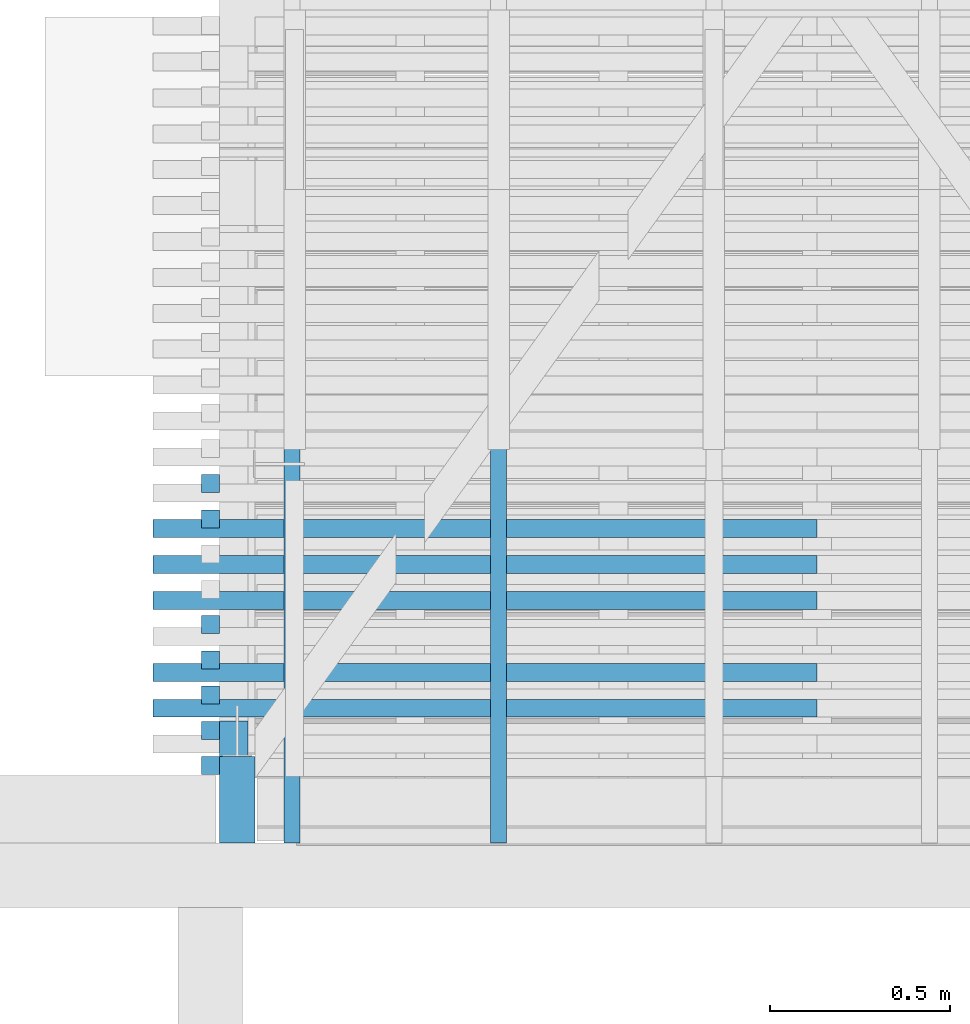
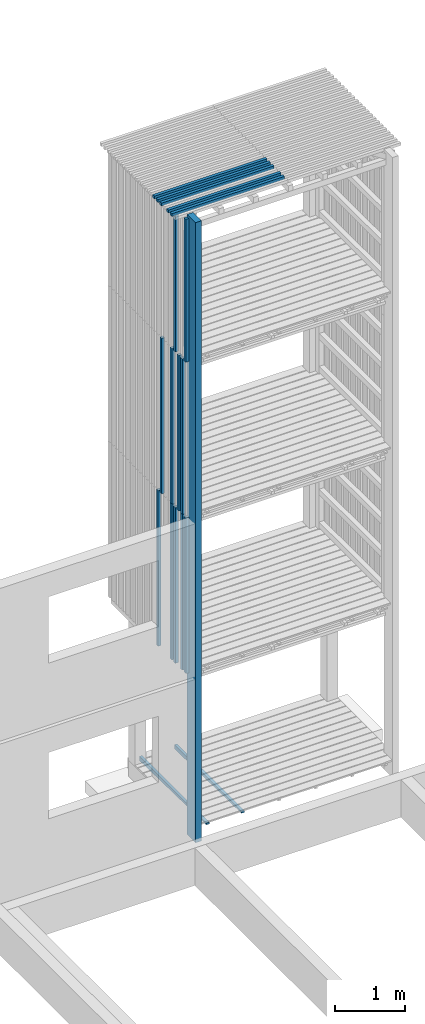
# One storey, part 59 of 182: 20 beams.
"""IFC2X3 building model written with IfcOpenShell, lengths in metres."""

from ifc_helpers import new_model, si_unit, frame, origin, place, context, project, spatial, faceted_brep, element, save


model = new_model("IFC2X3")

# Units and contexts
model_context = context("Model", 3, precision=1e-06, world=origin())
ifc_project = project(units=[si_unit("LENGTHUNIT", "METRE"), si_unit("PLANEANGLEUNIT", "RADIAN")], contexts=[model_context])

# Site, building, storey
site = spatial("IfcSite", under=ifc_project, CompositionType="ELEMENT")
building = spatial("IfcBuilding", under=site, CompositionType="ELEMENT")
storey = spatial("IfcBuildingStorey", under=building, Name="vs", CompositionType="ELEMENT", Elevation=-0.85)

# Beams
placement = place(None, origin())
beam_1_placement = place(placement, frame((24.709999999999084, 11.245077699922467, 10.47999999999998), z_axis=(0.0, 0.0, 1.0), x_axis=(-1.0, 0.0, 0.0)))
element("IfcBeam", 1, at=beam_1_placement, inside=storey, Name="Bardage", context=model_context, shape_type="Brep", body=[
    faceted_brep([(1.850000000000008, -0.024999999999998, -0.024999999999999), (1.850000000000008, -0.024999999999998, 0.025000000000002), (-1e-15, -0.024999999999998, 0.025000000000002), (-1e-15, -0.024999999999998, -0.024999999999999), (1.850000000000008, -0.024999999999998, 0.025000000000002), (1.850000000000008, -0.024999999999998, -0.024999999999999), (1.850000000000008, 0.024999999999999, -0.024999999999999), (1.850000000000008, 0.024999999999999, 0.025000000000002), (1.850000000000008, 0.024999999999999, -0.024999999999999), (1.850000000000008, -0.024999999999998, -0.024999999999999), (-1e-15, -0.024999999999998, -0.024999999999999), (-1e-15, 0.024999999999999, -0.024999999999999), (1.850000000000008, 0.024999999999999, 0.025000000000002), (1.850000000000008, 0.024999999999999, -0.024999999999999), (-1e-15, 0.024999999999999, -0.024999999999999), (-1e-15, 0.024999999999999, 0.025000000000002), (-1e-15, -0.024999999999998, 0.025000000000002), (1.850000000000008, -0.024999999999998, 0.025000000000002), (1.850000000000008, 0.024999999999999, 0.025000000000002), (-1e-15, 0.024999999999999, 0.025000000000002), (-1e-15, -0.024999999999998, -0.024999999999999), (-1e-15, -0.024999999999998, 0.025000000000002), (-1e-15, 0.024999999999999, 0.025000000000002), (-1e-15, 0.024999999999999, -0.024999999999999)], [[[0, 1, 2, 3]], [[4, 5, 6, 7]], [[8, 9, 10, 11]], [[12, 13, 14, 15]], [[16, 17, 18, 19]], [[20, 21, 22, 23]]]),
])
beam_2_placement = place(placement, frame((23.094999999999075, 10.590077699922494, 10.494999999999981), z_axis=(0.0, 1.0, 0.0), x_axis=(0.0, 0.0, -1.0)))
element("IfcBeam", 2, at=beam_2_placement, inside=storey, Name="Poteau", context=model_context, shape_type="Brep", body=[
    faceted_brep([(0.0, -0.049999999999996, 0.120000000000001), (0.0, -0.049999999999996, -0.120000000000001), (10.754999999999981, -0.049999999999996, -0.120000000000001), (10.754999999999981, -0.049999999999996, 0.120000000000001), (10.754999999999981, -0.049999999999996, -0.120000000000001), (0.0, -0.049999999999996, -0.120000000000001), (0.0, 0.049999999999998, -0.120000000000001), (10.754999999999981, 0.049999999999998, -0.120000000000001), (10.754999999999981, -0.049999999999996, 0.120000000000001), (10.754999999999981, -0.049999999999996, -0.120000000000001), (10.754999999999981, 0.049999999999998, -0.120000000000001), (10.754999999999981, 0.049999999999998, 0.120000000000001), (0.0, -0.049999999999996, 0.120000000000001), (10.754999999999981, -0.049999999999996, 0.120000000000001), (10.754999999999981, 0.049999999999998, 0.120000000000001), (0.0, 0.049999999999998, 0.120000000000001), (10.754999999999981, 0.049999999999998, -0.120000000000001), (0.0, 0.049999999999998, -0.120000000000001), (0.0, 0.049999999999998, 0.120000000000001), (10.754999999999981, 0.049999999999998, 0.120000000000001), (0.0, 0.049999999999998, 0.120000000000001), (0.0, 0.049999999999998, -0.120000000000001), (0.0, -0.049999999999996, -0.120000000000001), (0.0, -0.049999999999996, 0.120000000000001)], [[[0, 1, 2, 3]], [[4, 5, 6, 7]], [[8, 9, 10, 11]], [[12, 13, 14, 15]], [[16, 17, 18, 19]], [[20, 21, 22, 23]]]),
])
beam_3_placement = place(placement, frame((23.24749999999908, 10.470077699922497, -0.015599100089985), z_axis=(0.0, 0.0, 1.0), x_axis=(0.0, 1.0, 0.0)))
element("IfcBeam", 3, at=beam_3_placement, inside=storey, Name="Calage", context=model_context, shape_type="Brep", body=[
    faceted_brep([(0.0, 0.022500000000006, 0.002600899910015), (1.910000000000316, 0.022500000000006, -0.035599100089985), (1.910000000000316, -0.022499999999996, -0.035599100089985), (0.0, -0.022499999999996, 0.002600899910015), (0.0, -0.022499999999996, 0.035599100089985), (0.0, 0.022500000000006, 0.035599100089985), (0.0, 0.022500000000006, 0.002600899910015), (0.0, -0.022499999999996, 0.002600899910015), (0.0, 0.022500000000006, 0.035599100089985), (0.0, -0.022499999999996, 0.035599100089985), (1.910000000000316, -0.022499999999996, 0.035599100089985), (1.910000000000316, 0.022500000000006, 0.035599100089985), (0.0, 0.022500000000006, 0.002600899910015), (0.0, 0.022500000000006, 0.035599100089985), (1.910000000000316, 0.022500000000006, 0.035599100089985), (1.910000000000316, 0.022500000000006, -0.035599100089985), (1.910000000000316, 0.022500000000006, -0.035599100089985), (1.910000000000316, 0.022500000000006, 0.035599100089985), (1.910000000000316, -0.022499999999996, 0.035599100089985), (1.910000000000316, -0.022499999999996, -0.035599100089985), (1.910000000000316, -0.022499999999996, -0.035599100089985), (1.910000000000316, -0.022499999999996, 0.035599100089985), (0.0, -0.022499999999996, 0.035599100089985), (0.0, -0.022499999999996, 0.002600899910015)], [[[0, 1, 2, 3]], [[4, 5, 6, 7]], [[8, 9, 10, 11]], [[12, 13, 14, 15]], [[16, 17, 18, 19]], [[20, 21, 22, 23]]]),
])
beam_4_placement = place(placement, frame((24.709999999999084, 11.145077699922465, 10.47999999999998), z_axis=(0.0, 0.0, 1.0), x_axis=(-1.0, 0.0, 0.0)))
element("IfcBeam", 4, at=beam_4_placement, inside=storey, Name="Bardage", context=model_context, shape_type="Brep", body=[
    faceted_brep([(1.850000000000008, -0.024999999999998, -0.024999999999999), (1.850000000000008, -0.024999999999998, 0.025000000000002), (-1e-15, -0.025000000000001, 0.025000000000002), (-1e-15, -0.025000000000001, -0.024999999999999), (1.850000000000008, -0.024999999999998, 0.025000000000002), (1.850000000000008, -0.024999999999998, -0.024999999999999), (1.850000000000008, 0.024999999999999, -0.024999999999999), (1.850000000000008, 0.024999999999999, 0.025000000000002), (1.850000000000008, 0.024999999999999, -0.024999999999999), (1.850000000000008, -0.024999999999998, -0.024999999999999), (-1e-15, -0.025000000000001, -0.024999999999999), (-1e-15, 0.024999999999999, -0.024999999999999), (1.850000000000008, 0.024999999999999, 0.025000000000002), (1.850000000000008, 0.024999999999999, -0.024999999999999), (-1e-15, 0.024999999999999, -0.024999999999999), (-1e-15, 0.024999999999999, 0.025000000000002), (-1e-15, -0.025000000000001, 0.025000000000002), (1.850000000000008, -0.024999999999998, 0.025000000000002), (1.850000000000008, 0.024999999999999, 0.025000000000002), (-1e-15, 0.024999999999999, 0.025000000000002), (-1e-15, -0.025000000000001, -0.024999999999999), (-1e-15, -0.025000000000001, 0.025000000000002), (-1e-15, 0.024999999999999, 0.025000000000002), (-1e-15, 0.024999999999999, -0.024999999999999)], [[[0, 1, 2, 3]], [[4, 5, 6, 7]], [[8, 9, 10, 11]], [[12, 13, 14, 15]], [[16, 17, 18, 19]], [[20, 21, 22, 23]]]),
])
beam_5_placement = place(placement, frame((24.709999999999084, 10.945077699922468, 10.47999999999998), z_axis=(0.0, 0.0, 1.0), x_axis=(-1.0, -2e-15, 0.0)))
element("IfcBeam", 5, at=beam_5_placement, inside=storey, Name="Bardage", context=model_context, shape_type="Brep", body=[
    faceted_brep([(1.850000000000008, -0.025000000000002, -0.024999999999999), (1.850000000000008, -0.025000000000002, 0.025000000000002), (-1e-15, -0.024999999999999, 0.025000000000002), (-1e-15, -0.024999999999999, -0.024999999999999), (1.850000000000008, -0.025000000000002, 0.025000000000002), (1.850000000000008, -0.025000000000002, -0.024999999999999), (1.850000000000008, 0.025000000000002, -0.024999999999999), (1.850000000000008, 0.025000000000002, 0.025000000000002), (1.850000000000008, 0.025000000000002, -0.024999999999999), (1.850000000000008, -0.025000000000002, -0.024999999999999), (-1e-15, -0.024999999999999, -0.024999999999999), (0.0, 0.025000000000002, -0.024999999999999), (1.850000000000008, 0.025000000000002, 0.025000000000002), (1.850000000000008, 0.025000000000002, -0.024999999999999), (0.0, 0.025000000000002, -0.024999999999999), (0.0, 0.025000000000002, 0.025000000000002), (-1e-15, -0.024999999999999, 0.025000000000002), (1.850000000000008, -0.025000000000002, 0.025000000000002), (1.850000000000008, 0.025000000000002, 0.025000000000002), (0.0, 0.025000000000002, 0.025000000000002), (-1e-15, -0.024999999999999, -0.024999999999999), (-1e-15, -0.024999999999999, 0.025000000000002), (0.0, 0.025000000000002, 0.025000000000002), (0.0, 0.025000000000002, -0.024999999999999)], [[[0, 1, 2, 3]], [[4, 5, 6, 7]], [[8, 9, 10, 11]], [[12, 13, 14, 15]], [[16, 17, 18, 19]], [[20, 21, 22, 23]]]),
])
beam_6_placement = place(placement, frame((24.709999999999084, 11.345077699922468, 10.47999999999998), z_axis=(0.0, 0.0, 1.0), x_axis=(-1.0, 0.0, 0.0)))
element("IfcBeam", 6, at=beam_6_placement, inside=storey, Name="Bardage", context=model_context, shape_type="Brep", body=[
    faceted_brep([(1.850000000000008, -0.024999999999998, -0.024999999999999), (1.850000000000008, -0.024999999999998, 0.025000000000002), (-1e-15, -0.024999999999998, 0.025000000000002), (-1e-15, -0.024999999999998, -0.024999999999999), (1.850000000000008, -0.024999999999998, 0.025000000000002), (1.850000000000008, -0.024999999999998, -0.024999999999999), (1.850000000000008, 0.025000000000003, -0.024999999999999), (1.850000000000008, 0.025000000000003, 0.025000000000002), (1.850000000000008, 0.025000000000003, -0.024999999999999), (1.850000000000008, -0.024999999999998, -0.024999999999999), (-1e-15, -0.024999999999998, -0.024999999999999), (-1e-15, 0.024999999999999, -0.024999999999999), (1.850000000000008, 0.025000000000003, 0.025000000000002), (1.850000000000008, 0.025000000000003, -0.024999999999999), (-1e-15, 0.024999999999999, -0.024999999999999), (-1e-15, 0.024999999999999, 0.025000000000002), (-1e-15, -0.024999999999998, 0.025000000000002), (1.850000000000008, -0.024999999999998, 0.025000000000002), (1.850000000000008, 0.025000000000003, 0.025000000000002), (-1e-15, 0.024999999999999, 0.025000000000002), (-1e-15, -0.024999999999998, -0.024999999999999), (-1e-15, -0.024999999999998, 0.025000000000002), (-1e-15, 0.024999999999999, 0.025000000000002), (-1e-15, 0.024999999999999, -0.024999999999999)], [[[0, 1, 2, 3]], [[4, 5, 6, 7]], [[8, 9, 10, 11]], [[12, 13, 14, 15]], [[16, 17, 18, 19]], [[20, 21, 22, 23]]]),
])
beam_7_placement = place(placement, frame((23.019999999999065, 11.077804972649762, 5.274999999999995), z_axis=(1.0, 0.0, 0.0), x_axis=(0.0, 0.0, 1.0)))
element("IfcBeam", 7, at=beam_7_placement, inside=storey, Name="Bardage", context=model_context, shape_type="Brep", body=[
    faceted_brep([(2.699999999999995, 0.025000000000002, 0.025000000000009), (2.699999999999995, -0.024999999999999, 0.025000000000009), (2.699999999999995, -0.024999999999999, -0.025000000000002), (2.699999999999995, 0.025000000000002, -0.025000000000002), (1e-15, 0.025000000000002, 0.025000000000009), (2.699999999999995, 0.025000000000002, 0.025000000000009), (2.699999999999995, 0.025000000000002, -0.025000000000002), (1e-15, 0.025000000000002, -0.025000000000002), (1e-15, -0.024999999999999, 0.025000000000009), (1e-15, 0.025000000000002, 0.025000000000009), (1e-15, 0.025000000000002, -0.025000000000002), (1e-15, -0.024999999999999, -0.025000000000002), (1e-15, 0.025000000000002, 0.025000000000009), (1e-15, -0.024999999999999, 0.025000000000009), (2.699999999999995, -0.024999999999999, 0.025000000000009), (2.699999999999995, 0.025000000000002, 0.025000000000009), (1e-15, -0.024999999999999, 0.025000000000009), (1e-15, -0.024999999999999, -0.025000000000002), (2.699999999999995, -0.024999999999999, -0.025000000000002), (2.699999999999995, -0.024999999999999, 0.025000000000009), (1e-15, -0.024999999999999, -0.025000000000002), (1e-15, 0.025000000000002, -0.025000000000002), (2.699999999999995, 0.025000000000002, -0.025000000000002), (2.699999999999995, -0.024999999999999, -0.025000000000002)], [[[0, 1, 2, 3]], [[4, 5, 6, 7]], [[8, 9, 10, 11]], [[12, 13, 14, 15]], [[16, 17, 18, 19]], [[20, 21, 22, 23]]]),
])
beam_8_placement = place(placement, frame((23.019999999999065, 10.881441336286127, 5.274999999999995), z_axis=(1.0, 0.0, 0.0), x_axis=(0.0, 0.0, 1.0)))
element("IfcBeam", 8, at=beam_8_placement, inside=storey, Name="Bardage", context=model_context, shape_type="Brep", body=[
    faceted_brep([(2.699999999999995, 0.024999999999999, 0.025000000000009), (2.699999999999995, -0.024999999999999, 0.025000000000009), (2.699999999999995, -0.024999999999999, -0.025000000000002), (2.699999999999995, 0.024999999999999, -0.025000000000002), (1e-15, 0.024999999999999, 0.025000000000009), (2.699999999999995, 0.024999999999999, 0.025000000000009), (2.699999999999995, 0.024999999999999, -0.025000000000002), (1e-15, 0.024999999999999, -0.025000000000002), (1e-15, -0.024999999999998, 0.025000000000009), (1e-15, 0.024999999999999, 0.025000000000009), (1e-15, 0.024999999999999, -0.025000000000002), (1e-15, -0.024999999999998, -0.025000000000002), (1e-15, 0.024999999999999, 0.025000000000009), (1e-15, -0.024999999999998, 0.025000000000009), (2.699999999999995, -0.024999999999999, 0.025000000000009), (2.699999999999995, 0.024999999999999, 0.025000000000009), (1e-15, -0.024999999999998, 0.025000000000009), (1e-15, -0.024999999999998, -0.025000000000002), (2.699999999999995, -0.024999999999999, -0.025000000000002), (2.699999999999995, -0.024999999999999, 0.025000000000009), (1e-15, -0.024999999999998, -0.025000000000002), (1e-15, 0.024999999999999, -0.025000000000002), (2.699999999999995, 0.024999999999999, -0.025000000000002), (2.699999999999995, -0.024999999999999, -0.025000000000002)], [[[0, 1, 2, 3]], [[4, 5, 6, 7]], [[8, 9, 10, 11]], [[12, 13, 14, 15]], [[16, 17, 18, 19]], [[20, 21, 22, 23]]]),
])
beam_9_placement = place(placement, frame((24.709999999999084, 10.845077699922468, 10.47999999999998), z_axis=(0.0, 0.0, 1.0), x_axis=(-1.0, 0.0, 0.0)))
element("IfcBeam", 9, at=beam_9_placement, inside=storey, Name="Bardage", context=model_context, shape_type="Brep", body=[
    faceted_brep([(1.850000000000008, -0.024999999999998, -0.024999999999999), (1.850000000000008, -0.024999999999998, 0.025000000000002), (-1e-15, -0.024999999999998, 0.025000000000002), (-1e-15, -0.024999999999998, -0.024999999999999), (1.850000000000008, -0.024999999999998, 0.025000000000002), (1.850000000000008, -0.024999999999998, -0.024999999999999), (1.850000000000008, 0.025000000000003, -0.024999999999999), (1.850000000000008, 0.025000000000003, 0.025000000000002), (1.850000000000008, 0.025000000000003, -0.024999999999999), (1.850000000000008, -0.024999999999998, -0.024999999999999), (-1e-15, -0.024999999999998, -0.024999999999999), (-1e-15, 0.025000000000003, -0.024999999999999), (1.850000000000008, 0.025000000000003, 0.025000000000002), (1.850000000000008, 0.025000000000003, -0.024999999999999), (-1e-15, 0.025000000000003, -0.024999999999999), (-1e-15, 0.025000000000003, 0.025000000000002), (-1e-15, -0.024999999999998, 0.025000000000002), (1.850000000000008, -0.024999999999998, 0.025000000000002), (1.850000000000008, 0.025000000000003, 0.025000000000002), (-1e-15, 0.025000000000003, 0.025000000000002), (-1e-15, -0.024999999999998, -0.024999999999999), (-1e-15, -0.024999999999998, 0.025000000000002), (-1e-15, 0.025000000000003, 0.025000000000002), (-1e-15, 0.025000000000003, -0.024999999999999)], [[[0, 1, 2, 3]], [[4, 5, 6, 7]], [[8, 9, 10, 11]], [[12, 13, 14, 15]], [[16, 17, 18, 19]], [[20, 21, 22, 23]]]),
])
beam_10_placement = place(placement, frame((23.82299999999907, 10.470077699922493, -0.015599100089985), z_axis=(0.0, 0.0, 1.0), x_axis=(0.0, 1.0, 0.0)))
element("IfcBeam", 10, at=beam_10_placement, inside=storey, Name="Calage", context=model_context, shape_type="Brep", body=[
    faceted_brep([(0.0, 0.022499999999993, 0.002600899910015), (1.91000000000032, 0.022499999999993, -0.035599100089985), (1.91000000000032, -0.022500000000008, -0.035599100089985), (0.0, -0.022500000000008, 0.002600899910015), (0.0, -0.022500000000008, 0.035599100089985), (0.0, 0.022499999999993, 0.035599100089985), (0.0, 0.022499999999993, 0.002600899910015), (0.0, -0.022500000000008, 0.002600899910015), (0.0, 0.022499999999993, 0.035599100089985), (0.0, -0.022500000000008, 0.035599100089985), (1.91000000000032, -0.022500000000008, 0.035599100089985), (1.91000000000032, 0.022499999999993, 0.035599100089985), (0.0, 0.022499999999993, 0.002600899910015), (0.0, 0.022499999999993, 0.035599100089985), (1.91000000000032, 0.022499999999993, 0.035599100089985), (1.91000000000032, 0.022499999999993, -0.035599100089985), (1.91000000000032, 0.022499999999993, -0.035599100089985), (1.91000000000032, 0.022499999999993, 0.035599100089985), (1.91000000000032, -0.022500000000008, 0.035599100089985), (1.91000000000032, -0.022500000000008, -0.035599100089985), (1.91000000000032, -0.022500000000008, -0.035599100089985), (1.91000000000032, -0.022500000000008, 0.035599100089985), (0.0, -0.022500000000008, 0.035599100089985), (0.0, -0.022500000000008, 0.002600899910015)], [[[0, 1, 2, 3]], [[4, 5, 6, 7]], [[8, 9, 10, 11]], [[12, 13, 14, 15]], [[16, 17, 18, 19]], [[20, 21, 22, 23]]]),
])
beam_11_placement = place(placement, frame((23.08499999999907, 10.760077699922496, 8.14699999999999), z_axis=(0.0, 1.0, 0.0), x_axis=(0.0, 0.0, 1.0)))
element("IfcBeam", 11, at=beam_11_placement, inside=storey, Name="Support bardage", context=model_context, shape_type="Brep", body=[
    faceted_brep([(2.017999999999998, -0.039999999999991, 0.05), (2.017999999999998, -0.039999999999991, -0.050000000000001), (2.017999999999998, 0.040000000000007, -0.050000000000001), (2.017999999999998, 0.040000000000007, 0.05), (1e-15, -0.039999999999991, -0.050000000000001), (1e-15, -0.039999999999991, 0.05), (1e-15, 0.040000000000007, 0.05), (1e-15, 0.040000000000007, -0.050000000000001), (2.017999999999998, 0.040000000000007, -0.050000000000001), (2.017999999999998, -0.039999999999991, -0.050000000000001), (1e-15, -0.039999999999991, -0.050000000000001), (1e-15, 0.040000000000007, -0.050000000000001), (1e-15, -0.039999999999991, -0.050000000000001), (2.017999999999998, -0.039999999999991, -0.050000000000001), (2.017999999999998, -0.039999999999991, 0.05), (1e-15, -0.039999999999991, 0.05), (1e-15, -0.039999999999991, 0.05), (2.017999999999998, -0.039999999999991, 0.05), (2.017999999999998, 0.040000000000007, 0.05), (1e-15, 0.040000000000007, 0.05), (1e-15, 0.040000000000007, 0.05), (2.017999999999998, 0.040000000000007, 0.05), (2.017999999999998, 0.040000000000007, -0.050000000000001), (1e-15, 0.040000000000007, -0.050000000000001)], [[[0, 1, 2, 3]], [[4, 5, 6, 7]], [[8, 9, 10, 11]], [[12, 13, 14, 15]], [[16, 17, 18, 19]], [[20, 21, 22, 23]]]),
])
beam_12_placement = place(placement, frame((23.019999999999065, 10.783259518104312, 2.575000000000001), z_axis=(1.0, 0.0, 0.0), x_axis=(0.0, 0.0, 1.0)))
element("IfcBeam", 12, at=beam_12_placement, inside=storey, Name="Bardage", context=model_context, shape_type="Brep", body=[
    faceted_brep([(2.699961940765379, -0.024999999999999, 0.025000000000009), (2.699961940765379, -0.024999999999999, -0.025000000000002), (2.699961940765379, 0.025000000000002, -0.025000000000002), (2.699961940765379, 0.025000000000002, 0.025000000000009), (0.0, -0.024999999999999, 0.025000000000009), (2.699961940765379, -0.024999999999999, 0.025000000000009), (2.699961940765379, 0.025000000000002, 0.025000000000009), (0.0, 0.025000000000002, 0.025000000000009), (0.0, -0.024999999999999, 0.025000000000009), (0.0, 0.025000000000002, 0.025000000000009), (0.0, 0.025000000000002, -0.025000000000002), (0.0, -0.024999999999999, -0.025000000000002), (0.0, -0.024999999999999, 0.025000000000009), (0.0, -0.024999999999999, -0.025000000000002), (2.699961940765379, -0.024999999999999, -0.025000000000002), (2.699961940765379, -0.024999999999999, 0.025000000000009), (0.0, -0.024999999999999, -0.025000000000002), (0.0, 0.025000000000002, -0.025000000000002), (2.699961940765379, 0.025000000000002, -0.025000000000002), (2.699961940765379, -0.024999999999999, -0.025000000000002), (0.0, 0.025000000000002, -0.025000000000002), (0.0, 0.025000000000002, 0.025000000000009), (2.699961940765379, 0.025000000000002, 0.025000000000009), (2.699961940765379, 0.025000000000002, -0.025000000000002)], [[[0, 1, 2, 3]], [[4, 5, 6, 7]], [[8, 9, 10, 11]], [[12, 13, 14, 15]], [[16, 17, 18, 19]], [[20, 21, 22, 23]]]),
])
beam_13_placement = place(placement, frame((23.019999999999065, 10.979623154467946, 2.575000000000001), z_axis=(1.0, 0.0, 0.0), x_axis=(0.0, 0.0, 1.0)))
element("IfcBeam", 13, at=beam_13_placement, inside=storey, Name="Bardage", context=model_context, shape_type="Brep", body=[
    faceted_brep([(2.699961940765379, -0.025000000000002, 0.025000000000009), (2.699961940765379, -0.025000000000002, -0.025000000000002), (2.699961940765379, 0.025000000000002, -0.025000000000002), (2.699961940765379, 0.025000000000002, 0.025000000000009), (0.0, -0.024999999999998, 0.025000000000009), (2.699961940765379, -0.025000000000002, 0.025000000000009), (2.699961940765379, 0.025000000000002, 0.025000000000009), (0.0, 0.025000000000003, 0.025000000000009), (0.0, -0.024999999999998, 0.025000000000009), (0.0, 0.025000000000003, 0.025000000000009), (0.0, 0.025000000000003, -0.025000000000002), (0.0, -0.024999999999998, -0.025000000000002), (0.0, -0.024999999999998, 0.025000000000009), (0.0, -0.024999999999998, -0.025000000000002), (2.699961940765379, -0.025000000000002, -0.025000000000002), (2.699961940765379, -0.025000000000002, 0.025000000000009), (0.0, -0.024999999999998, -0.025000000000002), (0.0, 0.025000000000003, -0.025000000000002), (2.699961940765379, 0.025000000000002, -0.025000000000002), (2.699961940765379, -0.025000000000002, -0.025000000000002), (0.0, 0.025000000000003, -0.025000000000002), (0.0, 0.025000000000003, 0.025000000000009), (2.699961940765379, 0.025000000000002, 0.025000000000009), (2.699961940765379, 0.025000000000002, -0.025000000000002)], [[[0, 1, 2, 3]], [[4, 5, 6, 7]], [[8, 9, 10, 11]], [[12, 13, 14, 15]], [[16, 17, 18, 19]], [[20, 21, 22, 23]]]),
])
beam_14_placement = place(placement, frame((23.019999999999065, 10.979623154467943, 7.974999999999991), z_axis=(1.0, 0.0, 0.0), x_axis=(0.0, 1e-15, 1.0)))
element("IfcBeam", 14, at=beam_14_placement, inside=storey, Name="Bardage", context=model_context, shape_type="Brep", body=[
    faceted_brep([(0.0, -0.025000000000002, 0.025000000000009), (0.0, 0.024999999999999, 0.025000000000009), (0.0, 0.024999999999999, -0.025000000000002), (0.0, -0.025000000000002, -0.025000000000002), (2.479999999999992, 0.025000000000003, -0.025000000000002), (2.479999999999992, 0.025000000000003, 0.025000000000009), (2.479999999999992, -0.024999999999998, 0.025000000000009), (2.479999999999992, -0.024999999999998, -0.025000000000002), (0.0, 0.024999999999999, 0.025000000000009), (0.0, -0.025000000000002, 0.025000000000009), (2.479999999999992, -0.024999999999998, 0.025000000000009), (2.479999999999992, 0.025000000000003, 0.025000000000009), (0.0, 0.024999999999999, -0.025000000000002), (0.0, 0.024999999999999, 0.025000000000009), (2.479999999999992, 0.025000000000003, 0.025000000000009), (2.479999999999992, 0.025000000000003, -0.025000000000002), (0.0, -0.025000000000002, -0.025000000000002), (0.0, 0.024999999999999, -0.025000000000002), (2.479999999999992, 0.025000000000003, -0.025000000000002), (2.479999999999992, -0.024999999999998, -0.025000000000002), (2.479999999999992, -0.024999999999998, 0.025000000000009), (0.0, -0.025000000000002, 0.025000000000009), (0.0, -0.025000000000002, -0.025000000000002), (2.479999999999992, -0.024999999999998, -0.025000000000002)], [[[0, 1, 2, 3]], [[4, 5, 6, 7]], [[8, 9, 10, 11]], [[12, 13, 14, 15]], [[16, 17, 18, 19]], [[20, 21, 22, 23]]]),
])
beam_15_placement = place(placement, frame((23.019999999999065, 10.783259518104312, 5.274999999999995), z_axis=(1.0, 0.0, 0.0), x_axis=(0.0, 0.0, 1.0)))
element("IfcBeam", 15, at=beam_15_placement, inside=storey, Name="Bardage", context=model_context, shape_type="Brep", body=[
    faceted_brep([(2.699999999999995, 0.025000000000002, 0.025000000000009), (2.699999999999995, -0.024999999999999, 0.025000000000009), (2.699999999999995, -0.024999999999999, -0.025000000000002), (2.699999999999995, 0.025000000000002, -0.025000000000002), (1e-15, 0.025000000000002, 0.025000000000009), (2.699999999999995, 0.025000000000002, 0.025000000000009), (2.699999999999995, 0.025000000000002, -0.025000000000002), (1e-15, 0.025000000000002, -0.025000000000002), (1e-15, -0.024999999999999, 0.025000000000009), (1e-15, 0.025000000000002, 0.025000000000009), (1e-15, 0.025000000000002, -0.025000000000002), (1e-15, -0.024999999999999, -0.025000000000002), (1e-15, 0.025000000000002, 0.025000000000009), (1e-15, -0.024999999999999, 0.025000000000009), (2.699999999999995, -0.024999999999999, 0.025000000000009), (2.699999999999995, 0.025000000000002, 0.025000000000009), (1e-15, -0.024999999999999, 0.025000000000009), (1e-15, -0.024999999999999, -0.025000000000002), (2.699999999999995, -0.024999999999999, -0.025000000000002), (2.699999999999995, -0.024999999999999, 0.025000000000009), (1e-15, -0.024999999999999, -0.025000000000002), (1e-15, 0.025000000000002, -0.025000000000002), (2.699999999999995, 0.025000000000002, -0.025000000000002), (2.699999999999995, -0.024999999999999, -0.025000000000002)], [[[0, 1, 2, 3]], [[4, 5, 6, 7]], [[8, 9, 10, 11]], [[12, 13, 14, 15]], [[16, 17, 18, 19]], [[20, 21, 22, 23]]]),
])
beam_16_placement = place(placement, frame((23.019999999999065, 10.6850776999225, 7.974999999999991), z_axis=(1.0, 0.0, 0.0), x_axis=(0.0, 0.0, 1.0)))
element("IfcBeam", 16, at=beam_16_placement, inside=storey, Name="Bardage", context=model_context, shape_type="Brep", body=[
    faceted_brep([(0.0, -0.024999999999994, 0.025000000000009), (0.0, 0.025000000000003, 0.025000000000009), (0.0, 0.025000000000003, -0.025000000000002), (0.0, -0.024999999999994, -0.025000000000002), (2.479999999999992, 0.025000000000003, -0.025000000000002), (2.479999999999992, 0.025000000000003, 0.025000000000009), (2.479999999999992, -0.024999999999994, 0.025000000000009), (2.479999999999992, -0.024999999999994, -0.025000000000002), (0.0, 0.025000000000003, 0.025000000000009), (0.0, -0.024999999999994, 0.025000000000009), (2.479999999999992, -0.024999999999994, 0.025000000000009), (2.479999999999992, 0.025000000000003, 0.025000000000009), (0.0, 0.025000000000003, -0.025000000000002), (0.0, 0.025000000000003, 0.025000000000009), (2.479999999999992, 0.025000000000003, 0.025000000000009), (2.479999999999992, 0.025000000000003, -0.025000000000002), (0.0, -0.024999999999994, -0.025000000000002), (0.0, 0.025000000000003, -0.025000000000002), (2.479999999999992, 0.025000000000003, -0.025000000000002), (2.479999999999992, -0.024999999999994, -0.025000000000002), (2.479999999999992, -0.024999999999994, 0.025000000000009), (0.0, -0.024999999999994, 0.025000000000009), (0.0, -0.024999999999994, -0.025000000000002), (2.479999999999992, -0.024999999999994, -0.025000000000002)], [[[0, 1, 2, 3]], [[4, 5, 6, 7]], [[8, 9, 10, 11]], [[12, 13, 14, 15]], [[16, 17, 18, 19]], [[20, 21, 22, 23]]]),
])
beam_17_placement = place(placement, frame((23.019999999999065, 11.372350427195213, 5.274999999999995), z_axis=(1.0, 0.0, 0.0), x_axis=(0.0, 0.0, 1.0)))
element("IfcBeam", 17, at=beam_17_placement, inside=storey, Name="Bardage", context=model_context, shape_type="Brep", body=[
    faceted_brep([(2.699999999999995, 0.024999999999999, 0.025000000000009), (2.699999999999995, -0.024999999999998, 0.025000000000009), (2.699999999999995, -0.024999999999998, -0.025000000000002), (2.699999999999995, 0.024999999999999, -0.025000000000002), (1e-15, 0.024999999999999, 0.025000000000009), (2.699999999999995, 0.024999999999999, 0.025000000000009), (2.699999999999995, 0.024999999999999, -0.025000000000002), (1e-15, 0.024999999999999, -0.025000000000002), (1e-15, -0.024999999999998, 0.025000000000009), (1e-15, 0.024999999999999, 0.025000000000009), (1e-15, 0.024999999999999, -0.025000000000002), (1e-15, -0.024999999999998, -0.025000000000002), (1e-15, 0.024999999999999, 0.025000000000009), (1e-15, -0.024999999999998, 0.025000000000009), (2.699999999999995, -0.024999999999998, 0.025000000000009), (2.699999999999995, 0.024999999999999, 0.025000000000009), (1e-15, -0.024999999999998, 0.025000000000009), (1e-15, -0.024999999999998, -0.025000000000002), (2.699999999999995, -0.024999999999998, -0.025000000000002), (2.699999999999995, -0.024999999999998, 0.025000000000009), (1e-15, -0.024999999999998, -0.025000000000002), (1e-15, 0.024999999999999, -0.025000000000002), (2.699999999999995, 0.024999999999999, -0.025000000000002), (2.699999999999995, -0.024999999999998, -0.025000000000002)], [[[0, 1, 2, 3]], [[4, 5, 6, 7]], [[8, 9, 10, 11]], [[12, 13, 14, 15]], [[16, 17, 18, 19]], [[20, 21, 22, 23]]]),
])
beam_18_placement = place(placement, frame((23.019999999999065, 11.470532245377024, 2.575000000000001), z_axis=(1.0, 0.0, 0.0), x_axis=(0.0, 0.0, 1.0)))
element("IfcBeam", 18, at=beam_18_placement, inside=storey, Name="Bardage", context=model_context, shape_type="Brep", body=[
    faceted_brep([(2.699961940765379, -0.025000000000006, 0.025000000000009), (2.699961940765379, -0.025000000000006, -0.025000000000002), (2.699961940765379, 0.024999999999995, -0.025000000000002), (2.699961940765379, 0.024999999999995, 0.025000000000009), (0.0, -0.025000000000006, 0.025000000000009), (2.699961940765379, -0.025000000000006, 0.025000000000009), (2.699961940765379, 0.024999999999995, 0.025000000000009), (0.0, 0.024999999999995, 0.025000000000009), (0.0, -0.025000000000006, 0.025000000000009), (0.0, 0.024999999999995, 0.025000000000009), (0.0, 0.024999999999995, -0.025000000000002), (0.0, -0.025000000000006, -0.025000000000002), (0.0, -0.025000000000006, 0.025000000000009), (0.0, -0.025000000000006, -0.025000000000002), (2.699961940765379, -0.025000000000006, -0.025000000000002), (2.699961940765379, -0.025000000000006, 0.025000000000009), (0.0, -0.025000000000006, -0.025000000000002), (0.0, 0.024999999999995, -0.025000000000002), (2.699961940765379, 0.024999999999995, -0.025000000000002), (2.699961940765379, -0.025000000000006, -0.025000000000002), (0.0, 0.024999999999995, -0.025000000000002), (0.0, 0.024999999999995, 0.025000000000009), (2.699961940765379, 0.024999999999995, 0.025000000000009), (2.699961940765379, 0.024999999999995, -0.025000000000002)], [[[0, 1, 2, 3]], [[4, 5, 6, 7]], [[8, 9, 10, 11]], [[12, 13, 14, 15]], [[16, 17, 18, 19]], [[20, 21, 22, 23]]]),
])
beam_19_placement = place(placement, frame((23.019999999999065, 11.077804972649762, 2.575000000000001), z_axis=(1.0, 0.0, 0.0), x_axis=(0.0, 0.0, 1.0)))
element("IfcBeam", 19, at=beam_19_placement, inside=storey, Name="Bardage", context=model_context, shape_type="Brep", body=[
    faceted_brep([(2.699961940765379, -0.024999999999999, 0.025000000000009), (2.699961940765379, -0.024999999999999, -0.025000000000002), (2.699961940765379, 0.025000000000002, -0.025000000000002), (2.699961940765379, 0.025000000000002, 0.025000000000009), (0.0, -0.024999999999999, 0.025000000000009), (2.699961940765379, -0.024999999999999, 0.025000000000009), (2.699961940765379, 0.025000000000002, 0.025000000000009), (0.0, 0.025000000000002, 0.025000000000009), (0.0, -0.024999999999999, 0.025000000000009), (0.0, 0.025000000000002, 0.025000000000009), (0.0, 0.025000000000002, -0.025000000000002), (0.0, -0.024999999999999, -0.025000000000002), (0.0, -0.024999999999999, 0.025000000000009), (0.0, -0.024999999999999, -0.025000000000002), (2.699961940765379, -0.024999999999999, -0.025000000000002), (2.699961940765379, -0.024999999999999, 0.025000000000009), (0.0, -0.024999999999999, -0.025000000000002), (0.0, 0.025000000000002, -0.025000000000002), (2.699961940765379, 0.025000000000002, -0.025000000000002), (2.699961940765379, -0.024999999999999, -0.025000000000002), (0.0, 0.025000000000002, -0.025000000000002), (0.0, 0.025000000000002, 0.025000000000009), (2.699961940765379, 0.025000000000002, 0.025000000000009), (2.699961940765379, 0.025000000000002, -0.025000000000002)], [[[0, 1, 2, 3]], [[4, 5, 6, 7]], [[8, 9, 10, 11]], [[12, 13, 14, 15]], [[16, 17, 18, 19]], [[20, 21, 22, 23]]]),
])
beam_20_placement = place(placement, frame((23.019999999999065, 10.6850776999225, 2.575000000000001), z_axis=(1.0, 0.0, 0.0), x_axis=(0.0, 0.0, 1.0)))
element("IfcBeam", 20, at=beam_20_placement, inside=storey, Name="Bardage", context=model_context, shape_type="Brep", body=[
    faceted_brep([(2.699961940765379, -0.024999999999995, 0.025000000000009), (2.699961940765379, -0.024999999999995, -0.025000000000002), (2.699961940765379, 0.025000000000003, -0.025000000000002), (2.699961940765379, 0.025000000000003, 0.025000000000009), (0.0, -0.024999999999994, 0.025000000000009), (2.699961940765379, -0.024999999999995, 0.025000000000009), (2.699961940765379, 0.025000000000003, 0.025000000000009), (0.0, 0.025000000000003, 0.025000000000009), (0.0, -0.024999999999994, 0.025000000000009), (0.0, 0.025000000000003, 0.025000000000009), (0.0, 0.025000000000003, -0.025000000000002), (0.0, -0.024999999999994, -0.025000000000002), (0.0, -0.024999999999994, 0.025000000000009), (0.0, -0.024999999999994, -0.025000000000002), (2.699961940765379, -0.024999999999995, -0.025000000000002), (2.699961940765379, -0.024999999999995, 0.025000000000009), (0.0, -0.024999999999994, -0.025000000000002), (0.0, 0.025000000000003, -0.025000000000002), (2.699961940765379, 0.025000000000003, -0.025000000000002), (2.699961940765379, -0.024999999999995, -0.025000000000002), (0.0, 0.025000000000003, -0.025000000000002), (0.0, 0.025000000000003, 0.025000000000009), (2.699961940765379, 0.025000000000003, 0.025000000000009), (2.699961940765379, 0.025000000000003, -0.025000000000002)], [[[0, 1, 2, 3]], [[4, 5, 6, 7]], [[8, 9, 10, 11]], [[12, 13, 14, 15]], [[16, 17, 18, 19]], [[20, 21, 22, 23]]]),
])

save(model, "model.ifc")
